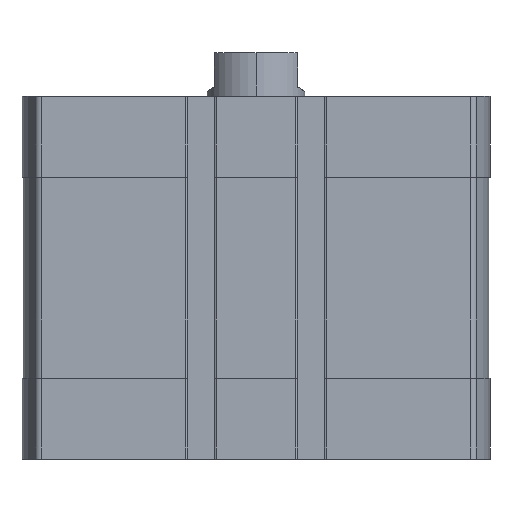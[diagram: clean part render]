
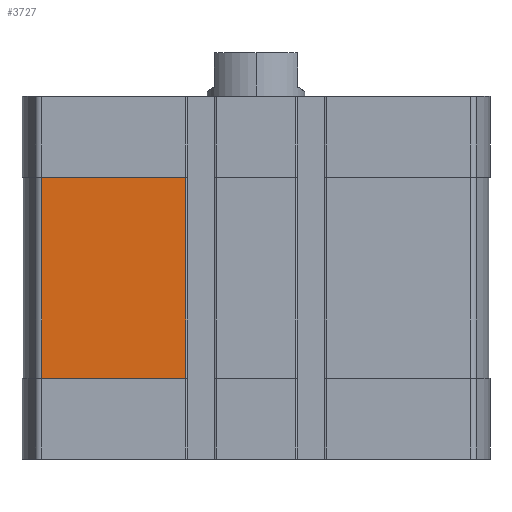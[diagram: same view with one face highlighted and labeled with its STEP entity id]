
A CAD part, left-side view. The second image highlights one B-rep face of the part: STEP entity #3727.
In plain terms, the highlighted planar face has unit normal (-1, 0, 0).
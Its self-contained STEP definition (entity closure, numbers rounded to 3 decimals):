
#500 = EDGE_CURVE ( 'NONE', #14129, #9758, #2021, .T. ) ;
#1207 = FACE_OUTER_BOUND ( 'NONE', #2148, .T. ) ;
#1448 = CARTESIAN_POINT ( 'NONE',  ( -47.5, 43.743, -57.5 ) ) ;
#2021 = LINE ( 'NONE', #15033, #14037 ) ;
#2148 = EDGE_LOOP ( 'NONE', ( #5832, #6601, #12380, #8680 ) ) ;
#2568 = DIRECTION ( 'NONE',  ( 0., -1., 0. ) ) ;
#3727 = ADVANCED_FACE ( 'NONE', ( #1207 ), #4764, .T. ) ;
#3884 = CARTESIAN_POINT ( 'NONE',  ( -47.5, 43.743, -57.5 ) ) ;
#4764 = PLANE ( 'NONE',  #11360 ) ;
#5832 = ORIENTED_EDGE ( 'NONE', *, *, #7867, .T. ) ;
#6015 = DIRECTION ( 'NONE',  ( -1., 0., 0. ) ) ;
#6044 = VECTOR ( 'NONE', #12123, 1000. ) ;
#6089 = LINE ( 'NONE', #7327, #6044 ) ;
#6415 = CARTESIAN_POINT ( 'NONE',  ( -47.5, 14.3, -16.5 ) ) ;
#6435 = VECTOR ( 'NONE', #2568, 1000. ) ;
#6600 = LINE ( 'NONE', #1448, #6435 ) ;
#6601 = ORIENTED_EDGE ( 'NONE', *, *, #11236, .T. ) ;
#7217 = CARTESIAN_POINT ( 'NONE',  ( -47.5, 43.743, -57.5 ) ) ;
#7327 = CARTESIAN_POINT ( 'NONE',  ( -47.5, 14.3, -57.5 ) ) ;
#7857 = DIRECTION ( 'NONE',  ( 0., 0., -1. ) ) ;
#7867 = EDGE_CURVE ( 'NONE', #9758, #14537, #6600, .T. ) ;
#8680 = ORIENTED_EDGE ( 'NONE', *, *, #500, .T. ) ;
#9758 = VERTEX_POINT ( 'NONE', #3884 ) ;
#9970 = EDGE_CURVE ( 'NONE', #13565, #14129, #13982, .T. ) ;
#10774 = VECTOR ( 'NONE', #15074, 1000. ) ;
#11190 = CARTESIAN_POINT ( 'NONE',  ( -47.5, 14.3, -57.5 ) ) ;
#11236 = EDGE_CURVE ( 'NONE', #14537, #13565, #6089, .T. ) ;
#11360 = AXIS2_PLACEMENT_3D ( 'NONE', #7217, #6015, #14371 ) ;
#12123 = DIRECTION ( 'NONE',  ( 0., 0., 1. ) ) ;
#12380 = ORIENTED_EDGE ( 'NONE', *, *, #9970, .T. ) ;
#12796 = CARTESIAN_POINT ( 'NONE',  ( -47.5, 43.743, -16.5 ) ) ;
#13565 = VERTEX_POINT ( 'NONE', #6415 ) ;
#13982 = LINE ( 'NONE', #14001, #10774 ) ;
#14001 = CARTESIAN_POINT ( 'NONE',  ( -47.5, 0., -16.5 ) ) ;
#14037 = VECTOR ( 'NONE', #7857, 1000. ) ;
#14129 = VERTEX_POINT ( 'NONE', #12796 ) ;
#14371 = DIRECTION ( 'NONE',  ( 0., 0., 1. ) ) ;
#14537 = VERTEX_POINT ( 'NONE', #11190 ) ;
#15033 = CARTESIAN_POINT ( 'NONE',  ( -47.5, 43.743, -57.5 ) ) ;
#15074 = DIRECTION ( 'NONE',  ( 0., 1., 0. ) ) ;
